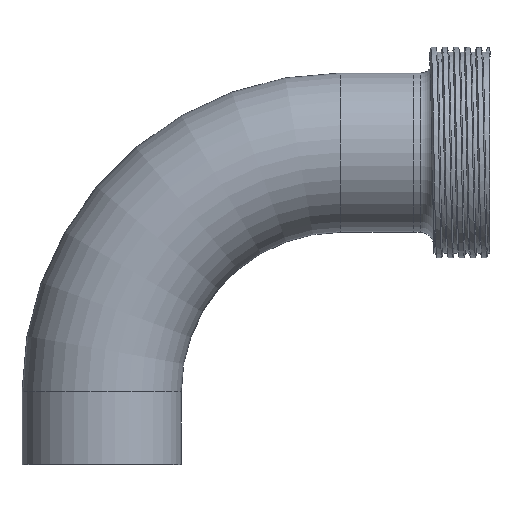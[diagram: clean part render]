
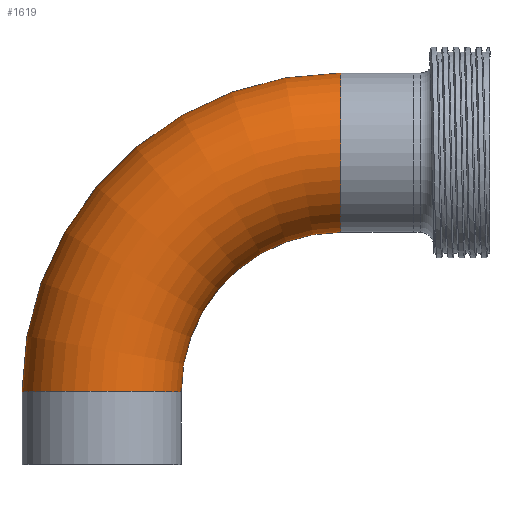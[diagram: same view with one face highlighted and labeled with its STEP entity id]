
A CAD part, top view. The second image highlights one B-rep face of the part: STEP entity #1619.
In plain terms, the highlighted toroidal (fillet/blend) face has major radius 57.15 mm and minor radius 19.05 mm.
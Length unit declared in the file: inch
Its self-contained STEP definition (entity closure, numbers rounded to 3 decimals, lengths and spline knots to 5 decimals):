
#40 = VERTEX_POINT ( 'NONE', #2590 ) ;
#271 = AXIS2_PLACEMENT_3D ( 'NONE', #2571, #1266, #2794 ) ;
#351 = ORIENTED_EDGE ( 'NONE', *, *, #2531, .F. ) ;
#362 = EDGE_LOOP ( 'NONE', ( #1213, #351, #833, #2696 ) ) ;
#438 = CARTESIAN_POINT ( 'NONE',  ( 0.75, -2.25, 0. ) ) ;
#493 = DIRECTION ( 'NONE',  ( -1., 0., 0. ) ) ;
#566 = CARTESIAN_POINT ( 'NONE',  ( 2.25, -2.25, 0. ) ) ;
#604 = EDGE_CURVE ( 'NONE', #1121, #645, #1840, .T. ) ;
#645 = VERTEX_POINT ( 'NONE', #2680 ) ;
#772 = AXIS2_PLACEMENT_3D ( 'NONE', #1810, #493, #2033 ) ;
#778 = CIRCLE ( 'NONE', #271, 1.5 ) ;
#784 = DIRECTION ( 'NONE',  ( 0., 0., -1. ) ) ;
#833 = ORIENTED_EDGE ( 'NONE', *, *, #1200, .T. ) ;
#979 = DIRECTION ( 'NONE',  ( 0., -1., 0. ) ) ;
#1121 = VERTEX_POINT ( 'NONE', #1231 ) ;
#1200 = EDGE_CURVE ( 'NONE', #1277, #1121, #778, .T. ) ;
#1213 = ORIENTED_EDGE ( 'NONE', *, *, #1394, .F. ) ;
#1231 = CARTESIAN_POINT ( 'NONE',  ( 2.25, -0.75, 0. ) ) ;
#1266 = DIRECTION ( 'NONE',  ( 0., 0., -1. ) ) ;
#1277 = VERTEX_POINT ( 'NONE', #438 ) ;
#1394 = EDGE_CURVE ( 'NONE', #40, #645, #2204, .T. ) ;
#1554 = CIRCLE ( 'NONE', #2418, 0.75 ) ;
#1619 = ADVANCED_FACE ( 'NONE', ( #2214 ), #2710, .T. ) ;
#1810 = CARTESIAN_POINT ( 'NONE',  ( 2.25, 0., 0. ) ) ;
#1840 = CIRCLE ( 'NONE', #772, 0.75 ) ;
#1851 = AXIS2_PLACEMENT_3D ( 'NONE', #566, #2099, #2315 ) ;
#2033 = DIRECTION ( 'NONE',  ( 0., -1., 0. ) ) ;
#2095 = CARTESIAN_POINT ( 'NONE',  ( 2.25, -2.25, 0. ) ) ;
#2099 = DIRECTION ( 'NONE',  ( 0., 0., -1. ) ) ;
#2204 = CIRCLE ( 'NONE', #2764, 3. ) ;
#2214 = FACE_OUTER_BOUND ( 'NONE', #362, .T. ) ;
#2295 = CARTESIAN_POINT ( 'NONE',  ( 0., -2.25, 0. ) ) ;
#2313 = DIRECTION ( 'NONE',  ( -1., 0., 0. ) ) ;
#2315 = DIRECTION ( 'NONE',  ( -1., 0., 0. ) ) ;
#2418 = AXIS2_PLACEMENT_3D ( 'NONE', #2295, #979, #2512 ) ;
#2512 = DIRECTION ( 'NONE',  ( 1., 0., 0. ) ) ;
#2531 = EDGE_CURVE ( 'NONE', #1277, #40, #1554, .T. ) ;
#2571 = CARTESIAN_POINT ( 'NONE',  ( 2.25, -2.25, 0. ) ) ;
#2590 = CARTESIAN_POINT ( 'NONE',  ( -0.75, -2.25, 0. ) ) ;
#2680 = CARTESIAN_POINT ( 'NONE',  ( 2.25, 0.75, 0. ) ) ;
#2696 = ORIENTED_EDGE ( 'NONE', *, *, #604, .T. ) ;
#2710 = TOROIDAL_SURFACE ( 'NONE', #1851, 2.25, 0.75 ) ;
#2764 = AXIS2_PLACEMENT_3D ( 'NONE', #2095, #784, #2313 ) ;
#2794 = DIRECTION ( 'NONE',  ( -1., 0., 0. ) ) ;
